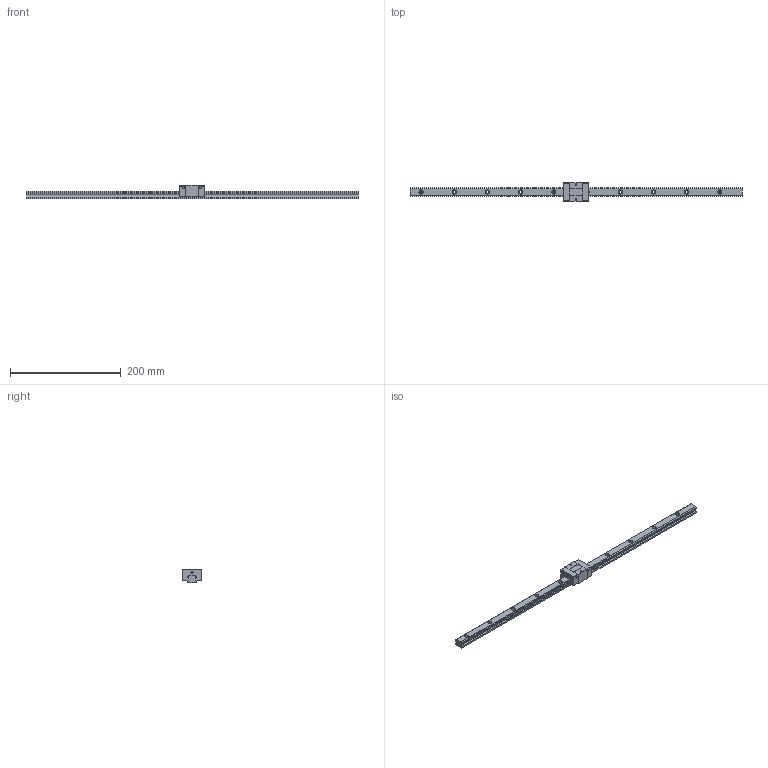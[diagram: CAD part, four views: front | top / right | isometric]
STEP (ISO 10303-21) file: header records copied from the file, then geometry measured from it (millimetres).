
FILE_DESCRIPTION (( 'STEP AP203' ), '1' );
FILE_NAME ('TRS15VS-SU.STEP', '2024-06-26T02:38:30', ( '' ), ( '' ), 'SwSTEP 2.0', 'SolidWorks 2022', '' );
FILE_SCHEMA (( 'CONFIG_CONTROL_DESIGN' ));
Length unit declared in the file: millimetre
Products named in the file (1): TRS15VS-SU
Bounding box: 600 x 34 x 24 mm (x, y, z)
Volume: 125934.4 mm3; surface area: 44483.1 mm2
Topology: 2 solids, 2 shells, 186 faces, 484 edges, 320 vertices
Faces by surface type: plane 94, cylinder 92
Entity records: 5863 total; most frequent: DIRECTION 1042, CARTESIAN_POINT 991, ORIENTED_EDGE 968, EDGE_CURVE 484, AXIS2_PLACEMENT_3D 371, VERTEX_POINT 320, VECTOR 300, LINE 300
